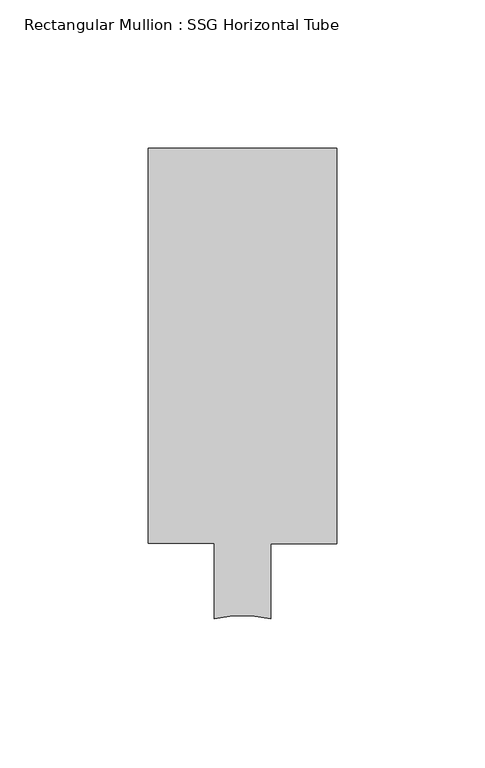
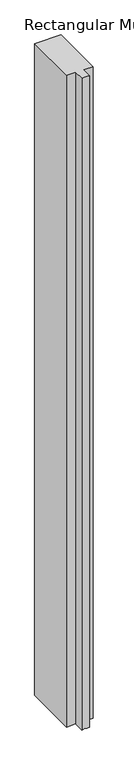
"""IFC4 building model written with IfcOpenShell, lengths in millimetres: member geometry, Rectangular Mullion : SSG Horizontal Tube."""

from ifc_helpers import new_model, si_unit, point, frame, frame_2d, origin, place, context, project, spatial, polyline, circle_curve, trimmed, segment, composite_curve, outline, extrude, source, transform, mapped, element, save


def rectangular_mullion_ssg_horizontal_tube_d552dfa0(model_context):
    return source(origin(), model_context, "Body", "SweptSolid", [
        extrude(outline(composite_curve([segment(polyline([(31.7705663, 114.3), (31.7705663, -19.05), (9.5552592, -19.05), (9.5552592, -44.4572901)]), True, "CONTINUOUS"), segment(trimmed(circle_curve(frame_2d((0.020565, -81.9595202)), 38.6953183), [point((9.5552592, -44.4572901))], [point((-9.4947442, -44.4523669))], True, "CARTESIAN"), True, "CONTINUOUS"), segment(polyline([(-9.4947442, -44.4523669), (-9.4947442, -18.9488461), (-31.75, -18.9488461), (-31.75, 114.3), (31.7705663, 114.3)]), True, "CONTINUOUS")], self_intersect=False)), frame((0.0, 0.0, -1663.6794337), z_axis=(0.0, 0.0, 1.0), x_axis=(1.0, 0.0, 0.0)), (0.0, 0.0, 1.0), 1663.6794337),
    ])


if __name__ == "__main__":
    model = new_model("IFC4")
    model_context = context("Model", 3, world=origin())
    ifc_project = project(units=[si_unit("LENGTHUNIT", "METRE", prefix="MILLI")], contexts=[model_context])
    site = spatial("IfcSite", under=ifc_project)
    building = spatial("IfcBuilding", under=site)
    placement = place(None, origin())
    rectangular_mullion_ssg_horizontal_tube_shape = rectangular_mullion_ssg_horizontal_tube_d552dfa0(model_context)
    element("IfcMember", 1, ObjectType="Rectangular Mullion : SSG Horizontal Tube", at=placement, inside=building, context=model_context, shape_type="MappedRepresentation", body=[
        mapped(rectangular_mullion_ssg_horizontal_tube_shape, transform((0.0, 0.0, 0.0), x_axis=(1.0, 0.0, 0.0), y_axis=(0.0, 1.0, 0.0), z_axis=(0.0, 0.0, 1.0))),
    ])
    save(model, "model.ifc")
